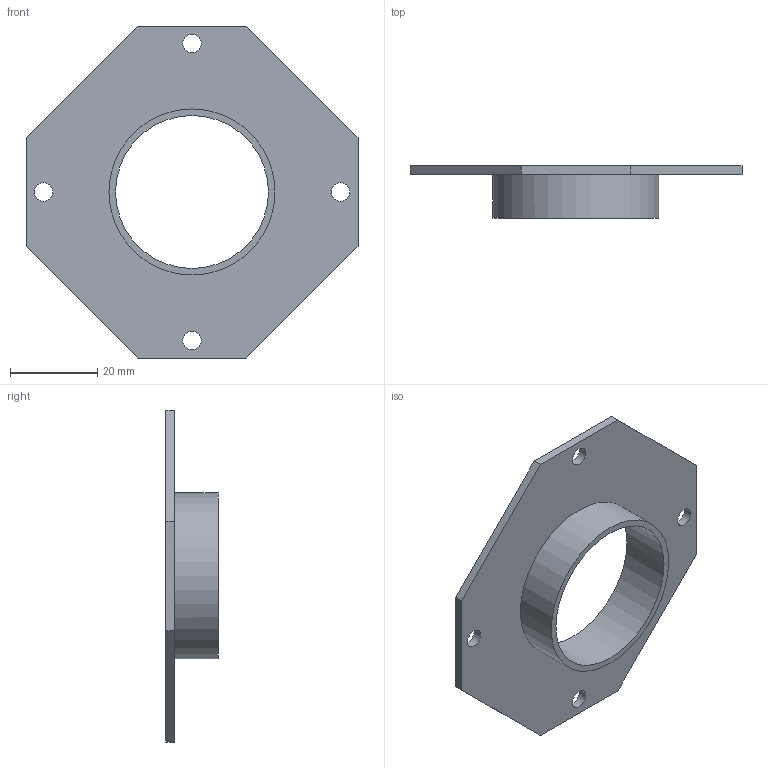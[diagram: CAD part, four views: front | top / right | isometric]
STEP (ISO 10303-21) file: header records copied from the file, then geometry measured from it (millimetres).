
FILE_DESCRIPTION(/* description */ (''),/* implementation_level */ '2;1');
FILE_NAME(/* name */ '',/* time_stamp */ '2026-05-08T17:29:55+08:00',/* author */ ('32769'),/* organization */ (''),/* preprocessor_version */ 'ST-DEVELOPER v20',/* originating_system */ 'Autodesk Inventor 2025',/* authorisation */ '');
FILE_SCHEMA (('AUTOMOTIVE_DESIGN { 1 0 10303 214 3 1 1 }'));
Length unit declared in the file: millimetre
Products named in the file (1): top-resonator 螺纹
Bounding box: 76 x 12 x 76 mm (x, y, z)
Volume: 8636 mm3; surface area: 10023.3 mm2
Topology: 1 solids, 1 shells, 17 faces, 52 edges, 50 vertices
Faces by surface type: plane 11, cylinder 6
Full cylindrical faces by diameter (mm): 4.2 x4, 35 x1, 38 x1
Entity records: 638 total; most frequent: CARTESIAN_POINT 110, DIRECTION 94, ORIENTED_EDGE 84, EDGE_CURVE 42, AXIS2_PLACEMENT_3D 32, LINE 30, VECTOR 30, EDGE_LOOP 28
